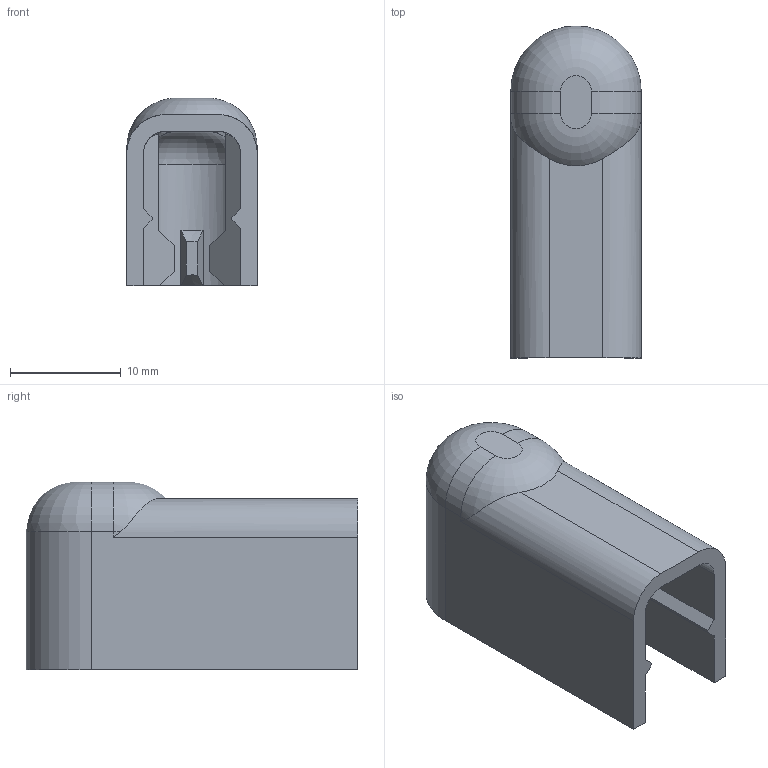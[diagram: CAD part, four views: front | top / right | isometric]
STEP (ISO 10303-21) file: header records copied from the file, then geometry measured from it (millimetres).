
FILE_DESCRIPTION(('Creo Elements/Direct Modeling STEP Export'),'2;1');
FILE_NAME('19990621_OA-BCP4.stp','2013-03-29T11:24:23',(''),(''),'Creo Elements/Direct Modeling STEP processor for AP214 (Solid Model)','Creo Elements/Direct Modeling 18.1B 29-Sep-2012 (C) Parametric Technology GmbH','');
FILE_SCHEMA(('AUTOMOTIVE_DESIGN { 1 0 10303 214 1 1 1 1 }'));
Length unit declared in the file: millimetre
Products named in the file (2): OA-BCP4
Assembly tree (1 placements, depth 2):
  OA-BCP4
    OA-BCP4
Bounding box: 11.8 x 30 x 17 mm (x, y, z)
Volume: 2074.2 mm3; surface area: 2588.5 mm2
Topology: 1 solids, 1 shells, 71 faces, 175 edges, 106 vertices
Faces by surface type: plane 40, cylinder 18, cone 10, torus 3
Entity records: 2490 total; most frequent: CARTESIAN_POINT 739, DIRECTION 354, ORIENTED_EDGE 350, EDGE_CURVE 175, AXIS2_PLACEMENT_3D 123, VECTOR 108, LINE 108, VERTEX_POINT 106
